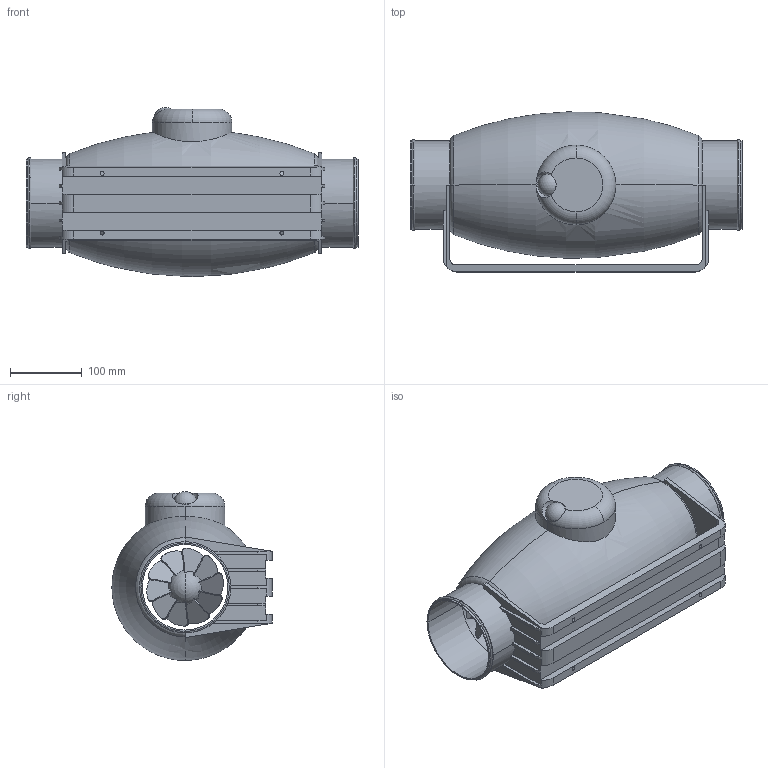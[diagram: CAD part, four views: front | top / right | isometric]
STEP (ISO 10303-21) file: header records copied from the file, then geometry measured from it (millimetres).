
FILE_DESCRIPTION(('STEP AP214'),'1');
FILE_NAME('fan_5211360400.stp','2017-09-22T12:31:40',('TraceParts'),('TraceParts S.A.'),'Spatial InterOp 3D',' ',' ');
FILE_SCHEMA(('automotive_design'));
Length unit declared in the file: millimetre
Products named in the file (1): fan_5211360400
Bounding box: 462 x 222.85 x 235.31 mm (x, y, z)
Volume: 2577128.6 mm3; surface area: 659154 mm2
Topology: 1 solids, 1 shells, 191 faces, 560 edges, 370 vertices
Faces by surface type: plane 104, cylinder 60, torus 18, sphere 9
Entity records: 8423 total; most frequent: CARTESIAN_POINT 1524, DIRECTION 1218, ORIENTED_EDGE 1116, EDGE_CURVE 558, AXIS2_PLACEMENT_3D 481, VERTEX_POINT 370, LINE 256, VECTOR 256
